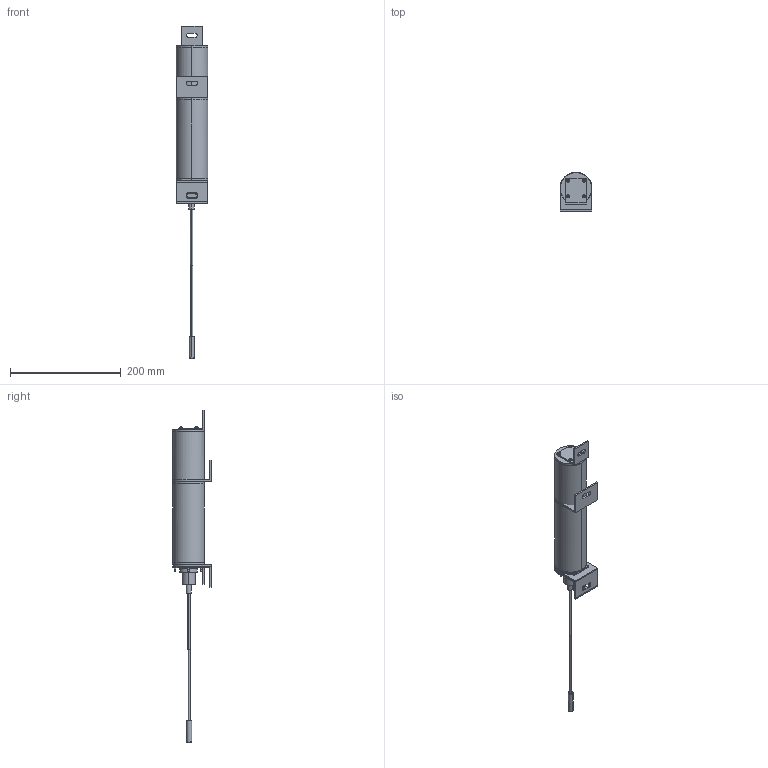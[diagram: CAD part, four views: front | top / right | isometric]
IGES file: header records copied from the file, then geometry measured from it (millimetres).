
Global section: file name: C:\ACADFILES\MG_PYLONS\CUSTOMER_FILES\MG-04-PYLON_3D_SMB.igs; native system: AutoCAD-18.2s (LMS Tech) (Microsoft Windows NT Version 6.1 (x86)); preprocessor: Autodesk IGES Translator Mechanical Desktop 2011 (Feb 18 2011) from Autodesk, Inc.; date: 20140328.142321; units: inch
Bounding box: 57.29 x 69.85 x 599.18 mm (x, y, z)
Surface area: 232038 mm2 (no closed solid volume)
Topology: 0 solids, 0 shells, 1800 faces, 9329 edges, 9504 vertices
Faces by surface type: bspline 1800
